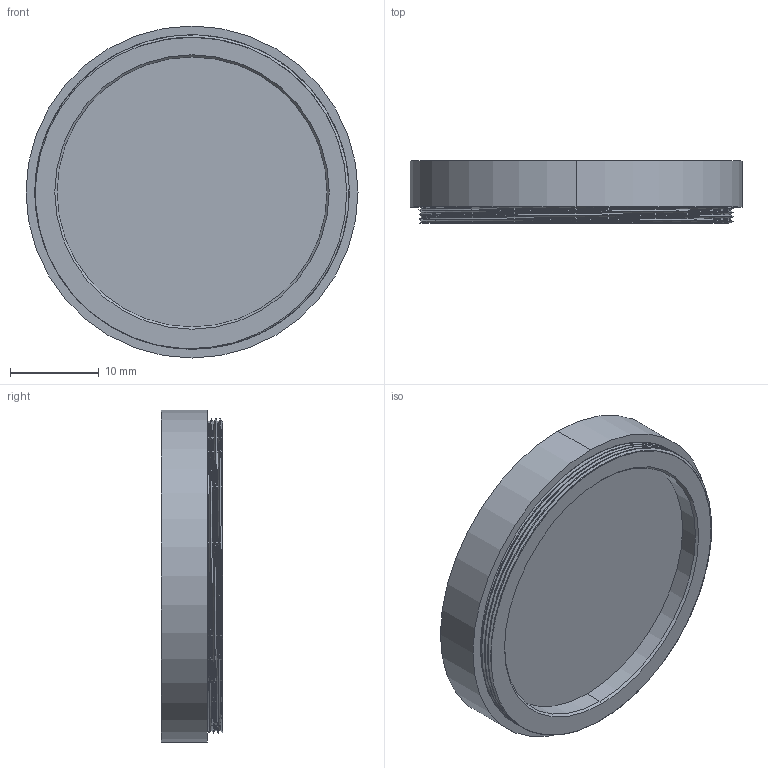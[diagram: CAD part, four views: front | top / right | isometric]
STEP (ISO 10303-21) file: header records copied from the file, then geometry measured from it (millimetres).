
FILE_DESCRIPTION (( 'STEP AP214' ), '1' );
FILE_NAME ('M35.5 x P0.5.STEP', '2023-01-19T08:17:51', ( '' ), ( '' ), 'SwSTEP 2.0', 'SolidWorks 2021', '' );
FILE_SCHEMA (( 'AUTOMOTIVE_DESIGN' ));
Length unit declared in the file: millimetre
Products named in the file (1): M35.5 x P0.5
Bounding box: 37.5 x 7 x 37.5 mm (x, y, z)
Volume: 1863.9 mm3; surface area: 4805.4 mm2
Topology: 3 solids, 3 shells, 50 faces, 121 edges, 80 vertices
Faces by surface type: cylinder 32, plane 10, bspline 6, cone 2
Entity records: 2866 total; most frequent: CARTESIAN_POINT 1771, ORIENTED_EDGE 242, DIRECTION 191, EDGE_CURVE 121, VERTEX_POINT 80, AXIS2_PLACEMENT_3D 79, EDGE_LOOP 57, ADVANCED_FACE 50
